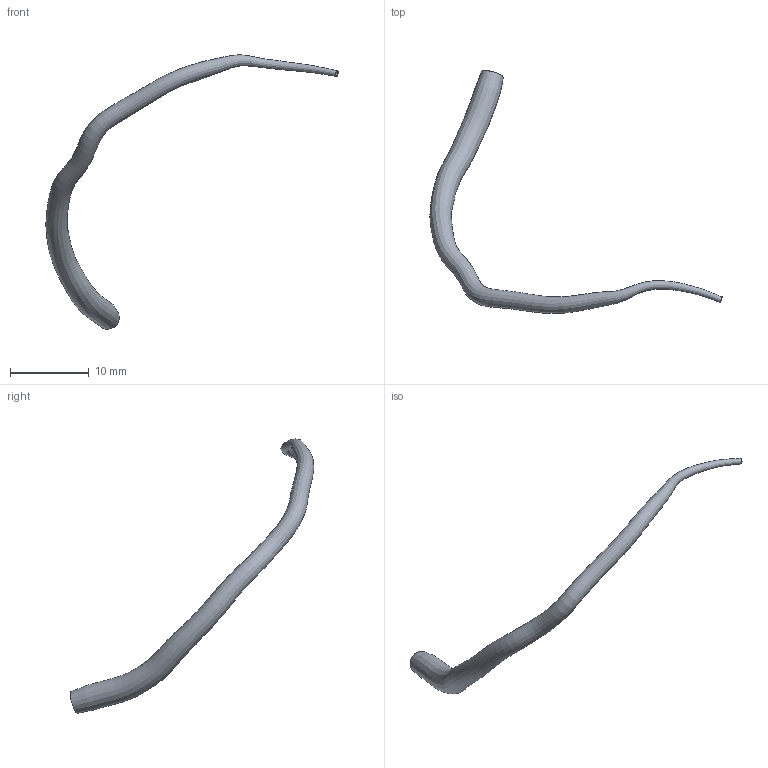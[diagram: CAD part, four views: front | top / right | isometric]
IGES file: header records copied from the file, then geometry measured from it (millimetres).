
Global section: file name: C:\Documents and Settings\Administrator\Desktop\FDA-Pig\Domestic LCA\Pig_000138\lcx.seg.es.igs; native system: Rhinoceros ( May 19 2006 ); preprocessor: Trout Lake IGES 012 May 19 2006; date: 111205.184713; units: centimetre
Bounding box: 37.01 x 30.83 x 34.76 mm (x, y, z)
Surface area: 1014.5 mm2 (no closed solid volume)
Topology: 0 solids, 0 shells, 4 faces, 13 edges, 10 vertices
Faces by surface type: bspline 4
